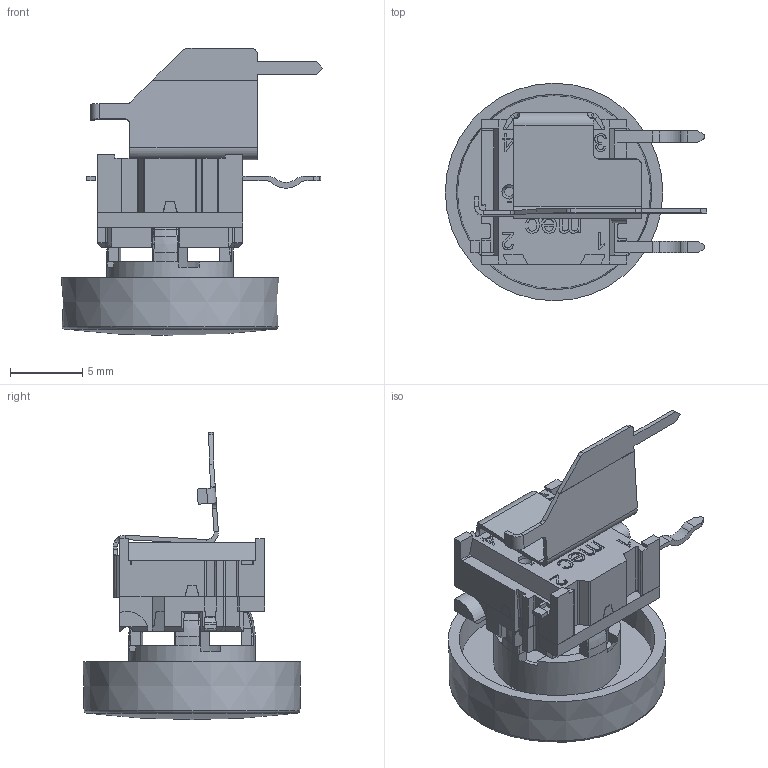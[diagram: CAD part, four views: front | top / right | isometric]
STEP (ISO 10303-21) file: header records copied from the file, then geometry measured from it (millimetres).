
FILE_DESCRIPTION(/* description */ (''),/* implementation_level */ '2;1');
FILE_NAME(/* name */ 'C:\Users\cgh.MEC\Desktop\Traceparts - 3D programserie\STEP filer\RAS\5GTH935RAS+1GCS.stp',/* time_stamp */ '2016-03-01T11:34:26+01:00',/* author */ ('cgh'),/* organization */ (''),/* preprocessor_version */ 'ST-DEVELOPER v15.2',/* originating_system */ 'Autodesk Inventor 2014',/* authorisation */ '');
FILE_SCHEMA (('AUTOMOTIVE_DESIGN { 1 0 10303 214 3 1 1 }'));
Length unit declared in the file: centimetre
Products named in the file (1): cgh
Bounding box: 18.05 x 15.02 x 19.82 mm (x, y, z)
Volume: 888.6 mm3; surface area: 1999.4 mm2
Topology: 2 solids, 15 shells, 1147 faces, 3243 edges, 2106 vertices
Faces by surface type: plane 728, cylinder 170, bspline 140, cone 59, torus 47, sphere 3
Full cylindrical faces by diameter (mm): 1 x3, 2.8 x1, 4.747 x1, 6.5 x1, 7.2 x1, 7.44 x1, 8.76 x1
Entity records: 41663 total; most frequent: CARTESIAN_POINT 11715, ORIENTED_EDGE 6422, DIRECTION 5424, EDGE_CURVE 3203, VERTEX_POINT 2091, LINE 2018, VECTOR 2018, AXIS2_PLACEMENT_3D 1703
